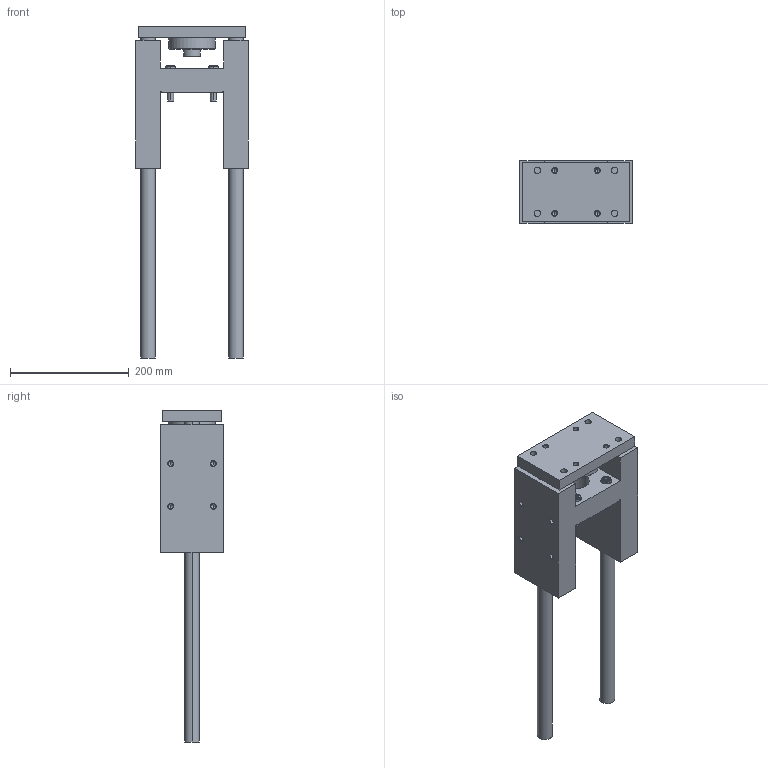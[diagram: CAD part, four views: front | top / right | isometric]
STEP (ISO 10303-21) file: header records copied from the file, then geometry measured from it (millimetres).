
FILE_DESCRIPTION (( 'STEP AP203' ), '1' );
FILE_NAME ('GB80-300.STEP', '2020-04-24T13:38:02', ( '' ), ( '' ), 'SwSTEP 2.0', 'SolidWorks 2019', '' );
FILE_SCHEMA (( 'CONFIG_CONTROL_DESIGN' ));
Length unit declared in the file: millimetre
Products named in the file (1): GB80-300
Bounding box: 189 x 105 x 558 mm (x, y, z)
Volume: 2990959.8 mm3; surface area: 366795.5 mm2
Topology: 6 solids, 6 shells, 329 faces, 728 edges, 412 vertices
Faces by surface type: cone 134, cylinder 98, plane 97
Entity records: 9631 total; most frequent: CARTESIAN_POINT 2242, DIRECTION 1662, ORIENTED_EDGE 1392, EDGE_CURVE 696, AXIS2_PLACEMENT_3D 664, VERTEX_POINT 412, EDGE_LOOP 392, CIRCLE 334
